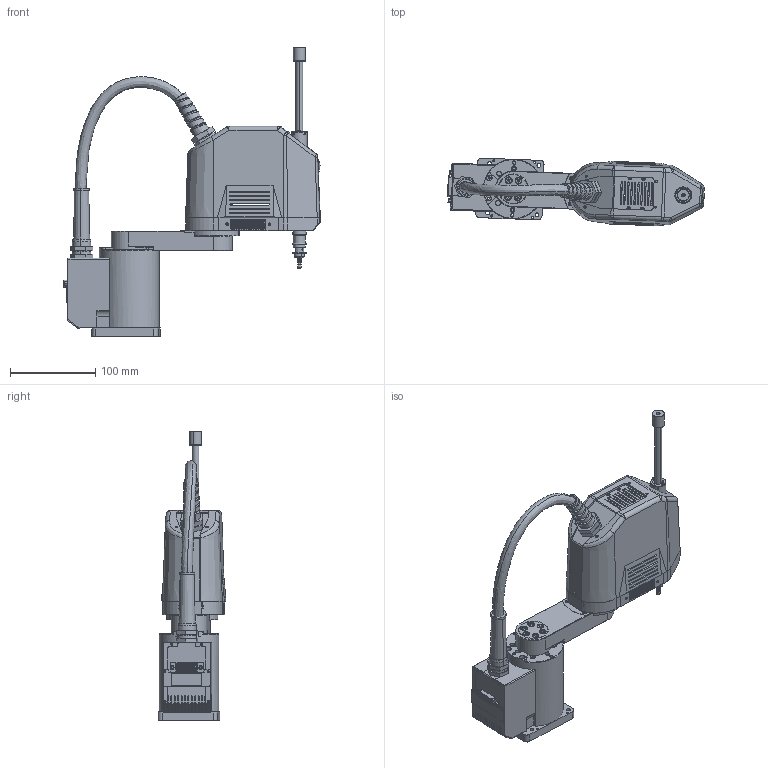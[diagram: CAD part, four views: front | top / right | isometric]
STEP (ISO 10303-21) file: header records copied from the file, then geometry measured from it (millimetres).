
FILE_DESCRIPTION (( 'STEP AP214' ), '1' );
FILE_NAME ('儂迮旋掛极200旋桯.STEP', '2025-05-21T11:05:53', ( '' ), ( '' ), 'SwSTEP 2.0', 'SolidWorks 2023', '' );
FILE_SCHEMA (( 'AUTOMOTIVE_DESIGN' ));
Length unit declared in the file: millimetre
Products named in the file (11): SC底板JH-SC-003-B2; adsfgvbQW-H; afdQW-H; BB200头罩F带扇热孔-改风格B1QW-H; 头罩压片QW-H; Z轴; 机械臂本体200臂展; 机械臂底座金属防折弯头200; 机械臂头部HH版; 新款机械臂大臂200; 装配体11^机械臂本体200臂展
Assembly tree (10 placements, depth 3):
  机械臂本体200臂展
    机械臂头部HH版
    Z轴
    装配体11^机械臂本体200臂展
      SC底板JH-SC-003-B2
      adsfgvbQW-H
      BB200头罩F带扇热孔-改风格B1QW-H
      afdQW-H
      头罩压片QW-H
    新款机械臂大臂200
    机械臂底座金属防折弯头200
Bounding box: 301.83 x 79.87 x 339.47 mm (x, y, z)
Volume: 158068.6 mm3; surface area: 304465.4 mm2
Topology: 5 solids, 130 shells, 2929 faces, 8762 edges, 5854 vertices
Faces by surface type: cylinder 1623, plane 840, cone 274, bspline 88, torus 78, sphere 26
Entity records: 111441 total; most frequent: CARTESIAN_POINT 30391, DIRECTION 17825, ORIENTED_EDGE 15118, EDGE_CURVE 8710, AXIS2_PLACEMENT_3D 6893, VERTEX_POINT 5854, LINE 4039, VECTOR 4039
